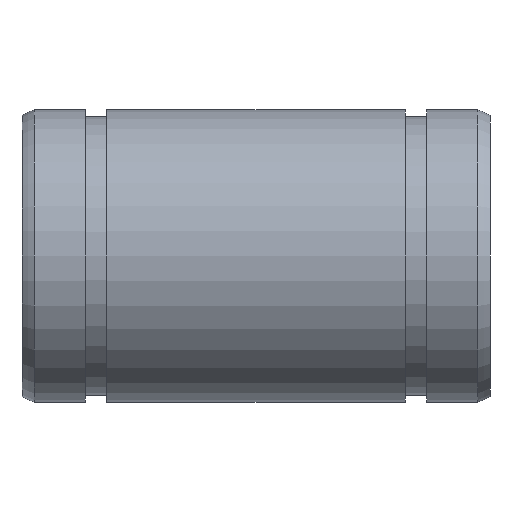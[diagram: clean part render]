
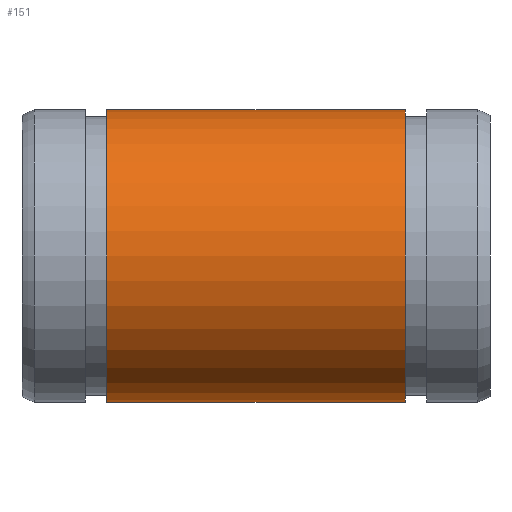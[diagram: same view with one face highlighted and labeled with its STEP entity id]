
A CAD part, front view. The second image highlights one B-rep face of the part: STEP entity #151.
In plain terms, the highlighted cylindrical face has radius 7.5 mm (diameter 15 mm), a full revolution.
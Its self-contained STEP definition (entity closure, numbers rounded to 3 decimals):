
#117=CARTESIAN_POINT('',(19.65,0.0,7.5));
#118=VERTEX_POINT('',#117);
#119=CARTESIAN_POINT('',(19.65,0.0,0.));
#120=DIRECTION('',(-1.0,0.0,0.0));
#121=DIRECTION('',(0.0,0.0,1.0));
#122=AXIS2_PLACEMENT_3D('',#119,#120,#121);
#123=CIRCLE('',#122,7.5);
#124=EDGE_CURVE('',#118,#118,#123,.T.);
#132=CARTESIAN_POINT('',(12.,0.0,0.));
#133=DIRECTION('',(-1.0,0.0,0.0));
#134=DIRECTION('',(0.0,0.0,1.0));
#135=AXIS2_PLACEMENT_3D('',#132,#133,#134);
#136=CYLINDRICAL_SURFACE('',#135,7.5);
#137=CARTESIAN_POINT('',(4.35,0.0,7.5));
#138=VERTEX_POINT('',#137);
#139=CARTESIAN_POINT('',(4.35,0.0,0.));
#140=DIRECTION('',(-1.0,0.0,0.0));
#141=DIRECTION('',(0.0,0.0,1.0));
#142=AXIS2_PLACEMENT_3D('',#139,#140,#141);
#143=CIRCLE('',#142,7.5);
#144=EDGE_CURVE('',#138,#138,#143,.T.);
#145=ORIENTED_EDGE('',*,*,#144,.F.);
#146=EDGE_LOOP('',(#145));
#147=FACE_OUTER_BOUND('',#146,.T.);
#148=ORIENTED_EDGE('',*,*,#124,.T.);
#149=EDGE_LOOP('',(#148));
#150=FACE_BOUND('',#149,.T.);
#151=ADVANCED_FACE('',(#147,#150),#136,.T.);
